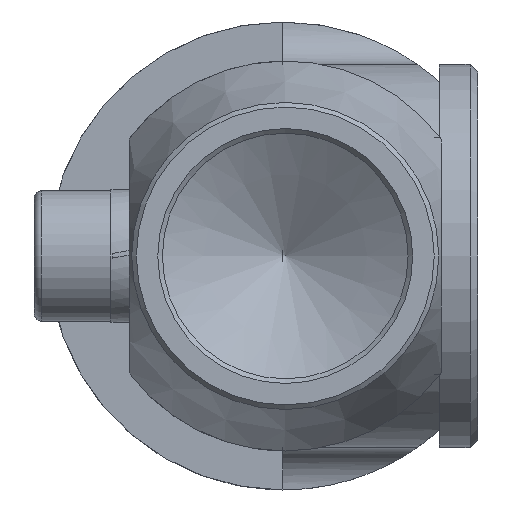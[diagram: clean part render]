
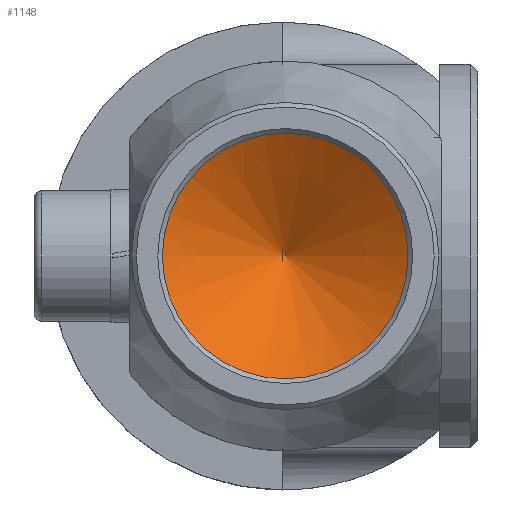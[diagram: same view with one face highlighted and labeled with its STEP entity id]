
A CAD part, front view. The second image highlights one B-rep face of the part: STEP entity #1148.
In plain terms, the highlighted conical face has half-angle 59 degrees and reference radius 4 mm.
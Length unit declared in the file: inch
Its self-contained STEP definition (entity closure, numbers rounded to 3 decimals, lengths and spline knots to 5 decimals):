
#183=FACE_OUTER_BOUND('',#259,.T.);
#259=EDGE_LOOP('',(#889,#890,#891));
#337=LINE('',#2028,#401);
#401=VECTOR('',#1609,0.15748);
#451=CIRCLE('',#1341,0.31496);
#521=VERTEX_POINT('',#1881);
#550=VERTEX_POINT('',#2027);
#631=EDGE_CURVE('',#521,#521,#451,.T.);
#676=EDGE_CURVE('',#521,#550,#337,.T.);
#889=ORIENTED_EDGE('',*,*,#631,.T.);
#890=ORIENTED_EDGE('',*,*,#676,.T.);
#891=ORIENTED_EDGE('',*,*,#676,.F.);
#1119=CONICAL_SURFACE('',#1382,0.15748,1.03);
#1148=ADVANCED_FACE('',(#183),#1119,.F.);
#1341=AXIS2_PLACEMENT_3D('',#1883,#1509,#1510);
#1382=AXIS2_PLACEMENT_3D('',#2026,#1607,#1608);
#1509=DIRECTION('center_axis',(0.,-1.,0.));
#1510=DIRECTION('ref_axis',(1.,0.,0.));
#1607=DIRECTION('center_axis',(0.,-1.,0.));
#1608=DIRECTION('ref_axis',(1.,0.,0.));
#1609=DIRECTION('',(0.857,0.515,0.));
#1881=CARTESIAN_POINT('',(-0.31496,1.33858,0.));
#1883=CARTESIAN_POINT('Origin',(0.,1.33858,0.));
#2026=CARTESIAN_POINT('Origin',(0.,1.43321,0.));
#2027=CARTESIAN_POINT('',(0.,1.52783,0.));
#2028=CARTESIAN_POINT('',(-0.15748,1.43321,0.));
